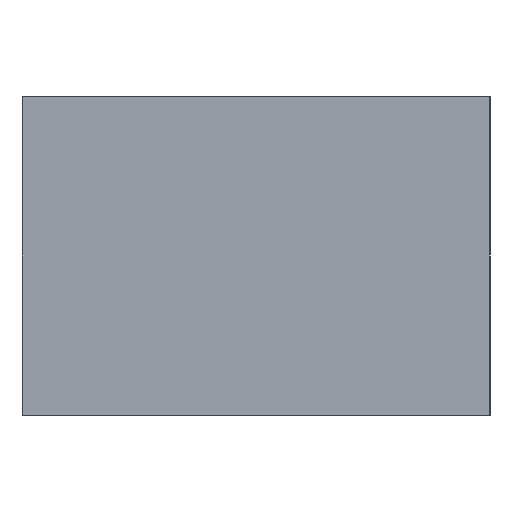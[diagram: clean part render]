
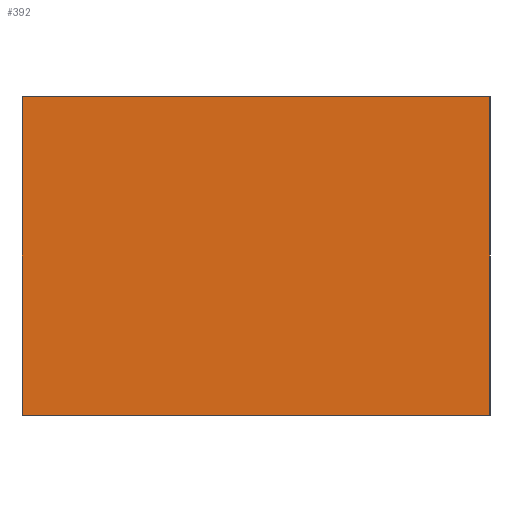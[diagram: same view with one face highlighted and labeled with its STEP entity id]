
A CAD part, left-side view. The second image highlights one B-rep face of the part: STEP entity #392.
In plain terms, the highlighted planar face has unit normal (-1, 0, 0).
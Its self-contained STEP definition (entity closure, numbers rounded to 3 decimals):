
#392 = ADVANCED_FACE('',(#393),#407,.F.);
#393 = FACE_BOUND('',#394,.F.);
#394 = EDGE_LOOP('',(#395,#430,#458,#486));
#395 = ORIENTED_EDGE('',*,*,#396,.F.);
#396 = EDGE_CURVE('',#397,#399,#401,.T.);
#397 = VERTEX_POINT('',#398);
#398 = CARTESIAN_POINT('',(-1.,-0.625,0.));
#399 = VERTEX_POINT('',#400);
#400 = CARTESIAN_POINT('',(-1.,-0.625,0.85));
#401 = SURFACE_CURVE('',#402,(#406,#418),.PCURVE_S1.);
#402 = LINE('',#403,#404);
#403 = CARTESIAN_POINT('',(-1.,-0.625,0.));
#404 = VECTOR('',#405,1.);
#405 = DIRECTION('',(0.,0.,1.));
#406 = PCURVE('',#407,#412);
#407 = PLANE('',#408);
#408 = AXIS2_PLACEMENT_3D('',#409,#410,#411);
#409 = CARTESIAN_POINT('',(-1.,-0.625,0.));
#410 = DIRECTION('',(1.,0.,0.));
#411 = DIRECTION('',(0.,0.,1.));
#412 = DEFINITIONAL_REPRESENTATION('',(#413),#417);
#413 = LINE('',#414,#415);
#414 = CARTESIAN_POINT('',(0.,0.));
#415 = VECTOR('',#416,1.);
#416 = DIRECTION('',(1.,0.));
#417 = ( GEOMETRIC_REPRESENTATION_CONTEXT(2) 
PARAMETRIC_REPRESENTATION_CONTEXT() REPRESENTATION_CONTEXT('2D SPACE',''
  ) );
#418 = PCURVE('',#419,#424);
#419 = PLANE('',#420);
#420 = AXIS2_PLACEMENT_3D('',#421,#422,#423);
#421 = CARTESIAN_POINT('',(-1.,-0.625,0.));
#422 = DIRECTION('',(0.,1.,0.));
#423 = DIRECTION('',(0.,0.,1.));
#424 = DEFINITIONAL_REPRESENTATION('',(#425),#429);
#425 = LINE('',#426,#427);
#426 = CARTESIAN_POINT('',(0.,0.));
#427 = VECTOR('',#428,1.);
#428 = DIRECTION('',(1.,0.));
#429 = ( GEOMETRIC_REPRESENTATION_CONTEXT(2) 
PARAMETRIC_REPRESENTATION_CONTEXT() REPRESENTATION_CONTEXT('2D SPACE',''
  ) );
#430 = ORIENTED_EDGE('',*,*,#431,.T.);
#431 = EDGE_CURVE('',#397,#432,#434,.T.);
#432 = VERTEX_POINT('',#433);
#433 = CARTESIAN_POINT('',(-1.,0.625,0.));
#434 = SURFACE_CURVE('',#435,(#439,#446),.PCURVE_S1.);
#435 = LINE('',#436,#437);
#436 = CARTESIAN_POINT('',(-1.,-0.625,0.));
#437 = VECTOR('',#438,1.);
#438 = DIRECTION('',(0.,1.,0.));
#439 = PCURVE('',#407,#440);
#440 = DEFINITIONAL_REPRESENTATION('',(#441),#445);
#441 = LINE('',#442,#443);
#442 = CARTESIAN_POINT('',(0.,0.));
#443 = VECTOR('',#444,1.);
#444 = DIRECTION('',(0.,-1.));
#445 = ( GEOMETRIC_REPRESENTATION_CONTEXT(2) 
PARAMETRIC_REPRESENTATION_CONTEXT() REPRESENTATION_CONTEXT('2D SPACE',''
  ) );
#446 = PCURVE('',#447,#452);
#447 = PLANE('',#448);
#448 = AXIS2_PLACEMENT_3D('',#449,#450,#451);
#449 = CARTESIAN_POINT('',(-1.,-0.625,0.));
#450 = DIRECTION('',(0.,0.,1.));
#451 = DIRECTION('',(1.,0.,0.));
#452 = DEFINITIONAL_REPRESENTATION('',(#453),#457);
#453 = LINE('',#454,#455);
#454 = CARTESIAN_POINT('',(0.,0.));
#455 = VECTOR('',#456,1.);
#456 = DIRECTION('',(0.,1.));
#457 = ( GEOMETRIC_REPRESENTATION_CONTEXT(2) 
PARAMETRIC_REPRESENTATION_CONTEXT() REPRESENTATION_CONTEXT('2D SPACE',''
  ) );
#458 = ORIENTED_EDGE('',*,*,#459,.T.);
#459 = EDGE_CURVE('',#432,#460,#462,.T.);
#460 = VERTEX_POINT('',#461);
#461 = CARTESIAN_POINT('',(-1.,0.625,0.85));
#462 = SURFACE_CURVE('',#463,(#467,#474),.PCURVE_S1.);
#463 = LINE('',#464,#465);
#464 = CARTESIAN_POINT('',(-1.,0.625,0.));
#465 = VECTOR('',#466,1.);
#466 = DIRECTION('',(0.,0.,1.));
#467 = PCURVE('',#407,#468);
#468 = DEFINITIONAL_REPRESENTATION('',(#469),#473);
#469 = LINE('',#470,#471);
#470 = CARTESIAN_POINT('',(0.,-1.25));
#471 = VECTOR('',#472,1.);
#472 = DIRECTION('',(1.,0.));
#473 = ( GEOMETRIC_REPRESENTATION_CONTEXT(2) 
PARAMETRIC_REPRESENTATION_CONTEXT() REPRESENTATION_CONTEXT('2D SPACE',''
  ) );
#474 = PCURVE('',#475,#480);
#475 = PLANE('',#476);
#476 = AXIS2_PLACEMENT_3D('',#477,#478,#479);
#477 = CARTESIAN_POINT('',(-1.,0.625,0.));
#478 = DIRECTION('',(0.,1.,0.));
#479 = DIRECTION('',(0.,0.,1.));
#480 = DEFINITIONAL_REPRESENTATION('',(#481),#485);
#481 = LINE('',#482,#483);
#482 = CARTESIAN_POINT('',(0.,0.));
#483 = VECTOR('',#484,1.);
#484 = DIRECTION('',(1.,0.));
#485 = ( GEOMETRIC_REPRESENTATION_CONTEXT(2) 
PARAMETRIC_REPRESENTATION_CONTEXT() REPRESENTATION_CONTEXT('2D SPACE',''
  ) );
#486 = ORIENTED_EDGE('',*,*,#487,.F.);
#487 = EDGE_CURVE('',#399,#460,#488,.T.);
#488 = SURFACE_CURVE('',#489,(#493,#500),.PCURVE_S1.);
#489 = LINE('',#490,#491);
#490 = CARTESIAN_POINT('',(-1.,-0.625,0.85));
#491 = VECTOR('',#492,1.);
#492 = DIRECTION('',(0.,1.,0.));
#493 = PCURVE('',#407,#494);
#494 = DEFINITIONAL_REPRESENTATION('',(#495),#499);
#495 = LINE('',#496,#497);
#496 = CARTESIAN_POINT('',(0.85,0.));
#497 = VECTOR('',#498,1.);
#498 = DIRECTION('',(0.,-1.));
#499 = ( GEOMETRIC_REPRESENTATION_CONTEXT(2) 
PARAMETRIC_REPRESENTATION_CONTEXT() REPRESENTATION_CONTEXT('2D SPACE',''
  ) );
#500 = PCURVE('',#501,#506);
#501 = PLANE('',#502);
#502 = AXIS2_PLACEMENT_3D('',#503,#504,#505);
#503 = CARTESIAN_POINT('',(-1.,-0.625,0.85));
#504 = DIRECTION('',(0.,0.,1.));
#505 = DIRECTION('',(1.,0.,0.));
#506 = DEFINITIONAL_REPRESENTATION('',(#507),#511);
#507 = LINE('',#508,#509);
#508 = CARTESIAN_POINT('',(0.,0.));
#509 = VECTOR('',#510,1.);
#510 = DIRECTION('',(0.,1.));
#511 = ( GEOMETRIC_REPRESENTATION_CONTEXT(2) 
PARAMETRIC_REPRESENTATION_CONTEXT() REPRESENTATION_CONTEXT('2D SPACE',''
  ) );
